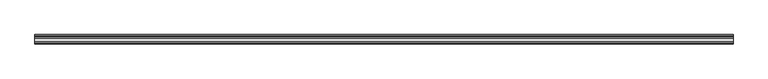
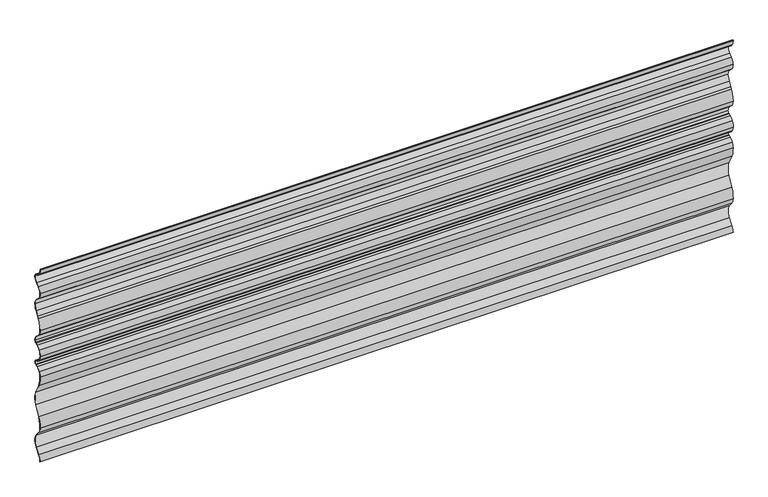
"""IFC4 building model written with IfcOpenShell, lengths in millimetres: plate geometry, Ritmica Horizontal 834 : Ritmica Horizontal 831."""

from ifc_helpers import new_model, si_unit, frame, origin, place, context, project, spatial, polyline, circle_curve, source, transform, mapped, element, save
from ifc_brep_helpers import plane_surface, cylinder_surface, revolved_surface, advanced_brep


def plate_3cee942e(model_context):
    return source(origin(), model_context, "Body", "AdvancedBrep", [
        advanced_brep(
        [(-1422.0, 6.8025667, 810.5701527), (-1422.0, 21.555412, 798.1235366), (-1422.0, 28.7508552, 795.2445695), (-1422.0, 32.2159416, 793.5852059), (-1422.0, 37.2499774, 785.5962388), (-1422.0, 25.2234387, 760.6206134), (-1422.0, 13.2407158, 751.0704574), (-1422.0, 1.2626984, 728.5919745), (-1422.0, 13.2668735, 701.127971), (-1422.0, 25.2571141, 690.0241978), (-1422.0, 37.3018308, 665.0573339), (-1422.0, 28.8878199, 638.3240963), (-1422.0, 17.756965, 620.9910926), (-1422.0, 13.3621237, 613.5575548), (-1422.0, 1.1795962, 569.3793833), (-1422.0, 13.1837712, 541.9153798), (-1422.0, 25.1740116, 530.8116067), (-1422.0, 37.2187289, 505.8415328), (-1422.0, 32.1905098, 497.8521133), (-1422.0, 28.7266321, 496.1902275), (-1422.0, 21.5332543, 493.3060102), (-1422.0, 6.7895069, 480.8486726), (-1422.0, 1.0915766, 457.0856569), (-1422.0, 6.6008381, 437.5469103), (-1422.0, 21.3536834, 425.1002943), (-1422.0, 28.5491266, 422.2213272), (-1422.0, 32.014213, 420.5619636), (-1422.0, 32.02003, 404.580367), (-1422.0, 28.5561524, 402.9184814), (-1422.0, 21.3628069, 400.034277), (-1422.0, 6.6190262, 387.5769248), (-1422.0, 1.1239895, 368.0341733), (-1422.0, 10.3054912, 324.2892209), (-1422.0, 30.7021579, 283.7581494), (-1422.0, 30.7217778, 229.8542794), (-1422.0, 10.3546215, 189.3083707), (-1422.0, 1.2049668, 145.5567461), (-1422.0, 9.8168279, 121.7925982), (-1422.0, 28.5126192, 99.3683726), (-1422.0, 28.5318582, 46.5109184), (-1422.0, 9.8523958, 23.7707747), (-1422.0, 1.2578365, 0.0), (-1422.0, 0.2578364, 0.0), (-1422.0, 9.0838592, 24.4105804), (-1422.0, 27.7463674, 47.1303588), (-1422.0, 27.7275795, 98.7483605), (-1422.0, 9.0487572, 121.1522332), (-1422.0, 0.2049775, 145.5386154), (-1422.0, 9.4571227, 189.7494732), (-1422.0, 29.8281826, 230.3031531), (-1422.0, 29.8088897, 283.3086253), (-1422.0, 9.4083137, 323.8474651), (-1422.0, 0.1239872, 368.0515751), (-1422.0, 5.7657549, 388.0983921), (-1422.0, 20.9908725, 400.9625361), (-1422.0, 28.1533532, 403.834365), (-1422.0, 31.587463, 405.4819688), (-1422.0, 31.5823024, 419.6600471), (-1422.0, 28.1469942, 421.3051505), (-1422.0, 20.9824248, 424.1717647), (-1422.0, 5.7479467, 437.024822), (-1422.0, 0.091602, 457.0529178), (-1422.0, 5.9328795, 481.3646468), (-1422.0, 21.1612849, 494.2342551), (-1422.0, 28.3238328, 497.1061111), (-1422.0, 31.7579428, 498.7537151), (-1422.0, 36.2187289, 505.841531), (-1422.0, 24.5223371, 530.052163), (-1422.0, 12.5043072, 541.1816709), (-1422.0, 0.1796018, 569.3680226), (-1422.0, 12.5080329, 614.0778463), (-1422.0, 16.9055506, 621.5159109), (-1422.0, 28.0560887, 638.8795656), (-1422.0, 36.3018302, 665.0587755), (-1422.0, 24.6053425, 689.2648438), (-1422.0, 12.5874095, 700.3942621), (-1422.0, 0.2626985, 728.5916105), (-1422.0, 12.6491122, 751.8777021), (-1422.0, 24.6001782, 761.4026277), (-1422.0, 36.2499775, 785.5958749), (-1422.0, 31.784031, 792.6832895), (-1422.0, 28.3487228, 794.3283929), (-1422.0, 21.1826741, 797.1955989), (-1422.0, 5.9471369, 810.0521734), (-1422.0, 0.0019432, 831.6592816), (-1422.0, 0.0, 834.3289815), (-1422.0, 1.0, 834.3289815), (-1422.0, 1.0, 831.6596456), (1422.0, 6.8025667, 810.5701527), (1422.0, 1.0019432, 831.6596456), (1422.0, 1.0, 834.3289815), (1422.0, 0.0, 834.3289815), (1422.0, 0.0, 831.6596456), (1422.0, 5.9471369, 810.0521734), (1422.0, 21.1826741, 797.1955989), (1422.0, 28.3487228, 794.3283929), (1422.0, 31.784031, 792.6832895), (1422.0, 36.2499775, 785.5958749), (1422.0, 24.6001782, 761.4026277), (1422.0, 12.6491122, 751.8777021), (1422.0, 0.2626985, 728.5916105), (1422.0, 12.5874095, 700.3942621), (1422.0, 24.6053425, 689.2648438), (1422.0, 36.3018302, 665.0587755), (1422.0, 28.0560887, 638.8795656), (1422.0, 16.9055506, 621.5159109), (1422.0, 12.5080329, 614.0778463), (1422.0, 0.1796018, 569.3680226), (1422.0, 12.5043072, 541.1816709), (1422.0, 24.5223371, 530.052163), (1422.0, 36.2187289, 505.841531), (1422.0, 31.7579428, 498.7537151), (1422.0, 28.3238328, 497.1061111), (1422.0, 21.1612849, 494.2342551), (1422.0, 5.9328795, 481.3646468), (1422.0, 0.091602, 457.0529178), (1422.0, 5.7479467, 437.024822), (1422.0, 20.9824248, 424.1717647), (1422.0, 28.1469942, 421.3051505), (1422.0, 31.5823024, 419.6600471), (1422.0, 31.587463, 405.4819688), (1422.0, 28.1533532, 403.834365), (1422.0, 20.9908725, 400.9625361), (1422.0, 5.7657549, 388.0983921), (1422.0, 0.1239872, 368.0515751), (1422.0, 9.4083137, 323.8474651), (1422.0, 29.8088897, 283.3086253), (1422.0, 29.8281826, 230.3031531), (1422.0, 9.4571227, 189.7494732), (1422.0, 0.2049775, 145.5386154), (1422.0, 9.0487572, 121.1522332), (1422.0, 27.7275795, 98.7483605), (1422.0, 27.7463674, 47.1303588), (1422.0, 9.0838592, 24.4105804), (1422.0, 0.2578364, 0.0), (1422.0, 1.2578365, 0.0), (1422.0, 9.8523958, 23.7707747), (1422.0, 28.5318582, 46.5109184), (1422.0, 28.5126192, 99.3683726), (1422.0, 9.8168279, 121.7925982), (1422.0, 1.2049668, 145.5567461), (1422.0, 10.3546215, 189.3083707), (1422.0, 30.7217778, 229.8542794), (1422.0, 30.7021579, 283.7581494), (1422.0, 10.3054912, 324.2892209), (1422.0, 1.1239895, 368.0341733), (1422.0, 6.6190262, 387.5769248), (1422.0, 21.3628069, 400.034277), (1422.0, 28.5561524, 402.9184814), (1422.0, 32.02003, 404.580367), (1422.0, 32.014213, 420.5619636), (1422.0, 28.5491266, 422.2213272), (1422.0, 21.3536834, 425.1002943), (1422.0, 6.6008381, 437.5469103), (1422.0, 1.0915766, 457.0856569), (1422.0, 6.7895069, 480.8486726), (1422.0, 21.5332543, 493.3060102), (1422.0, 28.7266321, 496.1902275), (1422.0, 32.1905098, 497.8521133), (1422.0, 37.2187289, 505.8415328), (1422.0, 25.1740116, 530.8116067), (1422.0, 13.1837712, 541.9153798), (1422.0, 1.1795962, 569.3793833), (1422.0, 13.3621237, 613.5575548), (1422.0, 17.756965, 620.9910926), (1422.0, 28.8878199, 638.3240963), (1422.0, 37.3018308, 665.0573339), (1422.0, 25.2571141, 690.0241978), (1422.0, 13.2668735, 701.127971), (1422.0, 1.2626984, 728.5919745), (1422.0, 13.2407158, 751.0704574), (1422.0, 25.2234387, 760.6206134), (1422.0, 37.2499774, 785.5962388), (1422.0, 32.2159416, 793.5852059), (1422.0, 28.7508552, 795.2445695), (1422.0, 21.555412, 798.1235366)],
        [
            (0, 1, circle_curve(frame((-1422.0, 33.118426, 826.7955631), z_axis=(1.0, 0.0, 0.0), x_axis=(0.0, 0.0, 1.0)), 30.9158276)),
            (1, 2),
            (2, 3),
            (3, 4, circle_curve(frame((-1422.0, 28.3886335, 785.5930135), z_axis=(-1.0, 0.0, 0.0), x_axis=(0.0, 0.0, 1.0)), 8.8613445)),
            (4, 5, circle_curve(frame((-1422.0, 5.3272804, 785.5846196), z_axis=(-1.0, 0.0, 0.0), x_axis=(0.0, 0.0, 1.0)), 31.9226992)),
            (5, 6),
            (6, 7, circle_curve(frame((-1422.0, 28.3252849, 728.6018247), z_axis=(1.0, 0.0, 0.0), x_axis=(0.0, 0.0, 1.0)), 27.0625882)),
            (7, 8, circle_curve(frame((-1422.0, 38.7130204, 728.6056057), z_axis=(1.0, 0.0, 0.0), x_axis=(0.0, 0.0, 1.0)), 37.4503244)),
            (8, 9),
            (9, 10, circle_curve(frame((-1422.0, 5.3791338, 665.0457146), z_axis=(-1.0, 0.0, 0.0), x_axis=(0.0, 0.0, 1.0)), 31.9226992)),
            (10, 11, circle_curve(frame((-1422.0, -9.8619916, 665.2109304), z_axis=(-1.0, 0.0, 0.0), x_axis=(0.0, 0.0, 1.0)), 47.1640725)),
            (11, 12),
            (12, 13),
            (13, 14, circle_curve(frame((-1422.0, 80.9291998, 571.1565204), z_axis=(1.0, 0.0, 0.0), x_axis=(0.0, 0.0, 1.0)), 79.769402)),
            (14, 15, circle_curve(frame((-1422.0, 38.6299181, 569.3930144), z_axis=(1.0, 0.0, 0.0), x_axis=(0.0, 0.0, 1.0)), 37.4503244)),
            (15, 16),
            (16, 17, circle_curve(frame((-1422.0, 5.3133473, 505.8414768), z_axis=(-1.0, 0.0, 0.0), x_axis=(0.0, 0.0, 1.0)), 31.9053816)),
            (17, 18, circle_curve(frame((-1422.0, 28.3573845, 505.8415173), z_axis=(-1.0, 0.0, 0.0), x_axis=(0.0, 0.0, 1.0)), 8.8613444)),
            (18, 19),
            (19, 20),
            (20, 21, circle_curve(frame((-1422.0, 32.9138374, 464.8830737), z_axis=(1.0, 0.0, 0.0), x_axis=(0.0, 0.0, 1.0)), 30.6166783)),
            (21, 22, circle_curve(frame((-1422.0, 42.2970284, 459.7699907), z_axis=(1.0, 0.0, 0.0), x_axis=(0.0, 0.0, 1.0)), 41.2927948)),
            (22, 23, circle_curve(frame((-1422.0, 38.5418985, 457.0992876), z_axis=(1.0, 0.0, 0.0), x_axis=(0.0, 0.0, 1.0)), 37.4503244)),
            (23, 24, circle_curve(frame((-1422.0, 32.7135403, 453.5315208), z_axis=(1.0, 0.0, 0.0), x_axis=(0.0, 0.0, 1.0)), 30.6166783)),
            (24, 25),
            (25, 26),
            (26, 27, circle_curve(frame((-1422.0, 28.1869049, 412.5697711), z_axis=(-1.0, 0.0, 0.0), x_axis=(0.0, 0.0, 1.0)), 8.8613445)),
            (27, 28),
            (28, 29),
            (29, 30, circle_curve(frame((-1422.0, 32.7433576, 371.6113276), z_axis=(1.0, 0.0, 0.0), x_axis=(0.0, 0.0, 1.0)), 30.6166783)),
            (30, 31, circle_curve(frame((-1422.0, 38.5743114, 368.0478045), z_axis=(1.0, 0.0, 0.0), x_axis=(0.0, 0.0, 1.0)), 37.4503244)),
            (31, 32, circle_curve(frame((-1422.0, 94.360147, 364.7672254), z_axis=(1.0, 0.0, 0.0), x_axis=(0.0, 0.0, 1.0)), 93.293376)),
            (32, 33),
            (33, 34, circle_curve(frame((-1422.0, -22.8939341, 256.7867029), z_axis=(-1.0, 0.0, 0.0), x_axis=(0.0, 0.0, 1.0)), 60.0)),
            (34, 35),
            (35, 36, circle_curve(frame((-1422.0, 94.4387214, 148.8915653), z_axis=(1.0, 0.0, 0.0), x_axis=(0.0, 0.0, 1.0)), 93.293376)),
            (36, 37, circle_curve(frame((-1422.0, 38.3363847, 145.5702612), z_axis=(1.0, 0.0, 0.0), x_axis=(0.0, 0.0, 1.0)), 37.1314203)),
            (37, 38),
            (38, 39, circle_curve(frame((-1422.0, -6.831934, 72.9267773), z_axis=(-1.0, 0.0, 0.0), x_axis=(0.0, 0.0, 1.0)), 44.1406321)),
            (39, 40),
            (40, 41, circle_curve(frame((-1422.0, 38.3892542, 0.0138791), z_axis=(1.0, 0.0, 0.0), x_axis=(0.0, 0.0, 1.0)), 37.1314203)),
            (41, 42),
            (42, 43, circle_curve(frame((-1422.0, 38.3892542, 0.0138791), z_axis=(-1.0, 0.0, 0.0), x_axis=(0.0, 0.0, 1.0)), 38.1314203)),
            (43, 44),
            (44, 45, circle_curve(frame((-1422.0, -6.831934, 72.9267773), z_axis=(1.0, 0.0, 0.0), x_axis=(0.0, 0.0, 1.0)), 43.1406321)),
            (45, 46),
            (46, 47, circle_curve(frame((-1422.0, 38.3363847, 145.5702612), z_axis=(-1.0, 0.0, 0.0), x_axis=(0.0, 0.0, 1.0)), 38.1314203)),
            (47, 48, circle_curve(frame((-1422.0, 94.4387214, 148.8915653), z_axis=(-1.0, 0.0, 0.0), x_axis=(0.0, 0.0, 1.0)), 94.293376)),
            (48, 49),
            (49, 50, circle_curve(frame((-1422.0, -22.8939341, 256.7867029), z_axis=(1.0, 0.0, 0.0), x_axis=(0.0, 0.0, 1.0)), 59.0)),
            (50, 51),
            (51, 52, circle_curve(frame((-1422.0, 94.360147, 364.7672254), z_axis=(-1.0, 0.0, 0.0), x_axis=(0.0, 0.0, 1.0)), 94.293376)),
            (52, 53, circle_curve(frame((-1422.0, 38.5743114, 368.0478045), z_axis=(-1.0, 0.0, 0.0), x_axis=(0.0, 0.0, 1.0)), 38.4503244)),
            (53, 54, circle_curve(frame((-1422.0, 32.7433576, 371.6113276), z_axis=(-1.0, 0.0, 0.0), x_axis=(0.0, 0.0, 1.0)), 31.6166783)),
            (54, 55),
            (55, 56),
            (56, 57, circle_curve(frame((-1422.0, 28.1869049, 412.5697711), z_axis=(1.0, 0.0, 0.0), x_axis=(0.0, 0.0, 1.0)), 7.8613445)),
            (57, 58),
            (58, 59),
            (59, 60, circle_curve(frame((-1422.0, 32.7135403, 453.5315208), z_axis=(-1.0, 0.0, 0.0), x_axis=(0.0, 0.0, 1.0)), 31.6166783)),
            (60, 61, circle_curve(frame((-1422.0, 38.5418985, 457.0992876), z_axis=(-1.0, 0.0, 0.0), x_axis=(0.0, 0.0, 1.0)), 38.4503244)),
            (61, 62, circle_curve(frame((-1422.0, 42.2970284, 459.7699907), z_axis=(-1.0, 0.0, 0.0), x_axis=(0.0, 0.0, 1.0)), 42.2927948)),
            (62, 63, circle_curve(frame((-1422.0, 32.9138374, 464.8830737), z_axis=(-1.0, 0.0, 0.0), x_axis=(0.0, 0.0, 1.0)), 31.6166782)),
            (63, 64),
            (64, 65),
            (65, 66, circle_curve(frame((-1422.0, 28.3573845, 505.8415173), z_axis=(1.0, 0.0, 0.0), x_axis=(0.0, 0.0, 1.0)), 7.8613444)),
            (66, 67, circle_curve(frame((-1422.0, 5.3133473, 505.8414768), z_axis=(1.0, 0.0, 0.0), x_axis=(0.0, 0.0, 1.0)), 30.9053816)),
            (67, 68),
            (68, 69, circle_curve(frame((-1422.0, 38.6299181, 569.3930144), z_axis=(-1.0, 0.0, 0.0), x_axis=(0.0, 0.0, 1.0)), 38.4503244)),
            (69, 70, circle_curve(frame((-1422.0, 80.9291998, 571.1565204), z_axis=(-1.0, 0.0, 0.0), x_axis=(0.0, 0.0, 1.0)), 80.769402)),
            (70, 71),
            (71, 72),
            (72, 73, circle_curve(frame((-1422.0, -9.8619916, 665.2109304), z_axis=(1.0, 0.0, 0.0), x_axis=(0.0, 0.0, 1.0)), 46.1640725)),
            (73, 74, circle_curve(frame((-1422.0, 5.3791338, 665.0457146), z_axis=(1.0, 0.0, 0.0), x_axis=(0.0, 0.0, 1.0)), 30.9226992)),
            (74, 75),
            (75, 76, circle_curve(frame((-1422.0, 38.7130204, 728.6056057), z_axis=(-1.0, 0.0, 0.0), x_axis=(0.0, 0.0, 1.0)), 38.4503244)),
            (76, 77, circle_curve(frame((-1422.0, 28.3252849, 728.6018247), z_axis=(-1.0, 0.0, 0.0), x_axis=(0.0, 0.0, 1.0)), 28.0625882)),
            (77, 78),
            (78, 79, circle_curve(frame((-1422.0, 5.3272804, 785.5846196), z_axis=(1.0, 0.0, 0.0), x_axis=(0.0, 0.0, 1.0)), 30.9226992)),
            (79, 80, circle_curve(frame((-1422.0, 28.3886335, 785.5930135), z_axis=(1.0, 0.0, 0.0), x_axis=(0.0, 0.0, 1.0)), 7.8613445)),
            (80, 81),
            (81, 82),
            (82, 83, circle_curve(frame((-1422.0, 33.118426, 826.7955631), z_axis=(-1.0, 0.0, 0.0), x_axis=(0.0, 0.0, 1.0)), 31.9158276)),
            (83, 84, circle_curve(frame((-1422.0, 42.2947353, 831.6746753), z_axis=(-1.0, 0.0, 0.0), x_axis=(0.0, 0.0, 1.0)), 42.2927949)),
            (84, 85),
            (85, 86),
            (86, 87),
            (87, 0, circle_curve(frame((-1422.0, 42.2947353, 831.6746753), z_axis=(1.0, 0.0, 0.0), x_axis=(0.0, 0.0, 1.0)), 41.2927949)),
            (88, 89, circle_curve(frame((1422.0, 42.2947353, 831.6746753), z_axis=(-1.0, 0.0, 0.0), x_axis=(0.0, 0.0, 1.0)), 41.2927949)),
            (89, 90),
            (90, 91),
            (91, 92),
            (92, 93, circle_curve(frame((1422.0, 42.2947353, 831.6746753), z_axis=(1.0, 0.0, 0.0), x_axis=(0.0, 0.0, 1.0)), 42.2927949)),
            (93, 94, circle_curve(frame((1422.0, 33.118426, 826.7955631), z_axis=(1.0, 0.0, 0.0), x_axis=(0.0, 0.0, 1.0)), 31.9158276)),
            (94, 95),
            (95, 96),
            (96, 97, circle_curve(frame((1422.0, 28.3886335, 785.5930135), z_axis=(-1.0, 0.0, 0.0), x_axis=(0.0, 0.0, 1.0)), 7.8613445)),
            (97, 98, circle_curve(frame((1422.0, 5.3272804, 785.5846196), z_axis=(-1.0, 0.0, 0.0), x_axis=(0.0, 0.0, 1.0)), 30.9226992)),
            (98, 99),
            (99, 100, circle_curve(frame((1422.0, 28.3252849, 728.6018247), z_axis=(1.0, 0.0, 0.0), x_axis=(0.0, 0.0, 1.0)), 28.0625882)),
            (100, 101, circle_curve(frame((1422.0, 38.7130204, 728.6056057), z_axis=(1.0, 0.0, 0.0), x_axis=(0.0, 0.0, 1.0)), 38.4503244)),
            (101, 102),
            (102, 103, circle_curve(frame((1422.0, 5.3791338, 665.0457146), z_axis=(-1.0, 0.0, 0.0), x_axis=(0.0, 0.0, 1.0)), 30.9226992)),
            (103, 104, circle_curve(frame((1422.0, -9.8619916, 665.2109304), z_axis=(-1.0, 0.0, 0.0), x_axis=(0.0, 0.0, 1.0)), 46.1640725)),
            (104, 105),
            (105, 106),
            (106, 107, circle_curve(frame((1422.0, 80.9291998, 571.1565204), z_axis=(1.0, 0.0, 0.0), x_axis=(0.0, 0.0, 1.0)), 80.769402)),
            (107, 108, circle_curve(frame((1422.0, 38.6299181, 569.3930144), z_axis=(1.0, 0.0, 0.0), x_axis=(0.0, 0.0, 1.0)), 38.4503244)),
            (108, 109),
            (109, 110, circle_curve(frame((1422.0, 5.3133473, 505.8414768), z_axis=(-1.0, 0.0, 0.0), x_axis=(0.0, 0.0, 1.0)), 30.9053816)),
            (110, 111, circle_curve(frame((1422.0, 28.3573845, 505.8415173), z_axis=(-1.0, 0.0, 0.0), x_axis=(0.0, 0.0, 1.0)), 7.8613444)),
            (111, 112),
            (112, 113),
            (113, 114, circle_curve(frame((1422.0, 32.9138374, 464.8830737), z_axis=(1.0, 0.0, 0.0), x_axis=(0.0, 0.0, 1.0)), 31.6166782)),
            (114, 115, circle_curve(frame((1422.0, 42.2970284, 459.7699907), z_axis=(1.0, 0.0, 0.0), x_axis=(0.0, 0.0, 1.0)), 42.2927948)),
            (115, 116, circle_curve(frame((1422.0, 38.5418985, 457.0992876), z_axis=(1.0, 0.0, 0.0), x_axis=(0.0, 0.0, 1.0)), 38.4503244)),
            (116, 117, circle_curve(frame((1422.0, 32.7135403, 453.5315208), z_axis=(1.0, 0.0, 0.0), x_axis=(0.0, 0.0, 1.0)), 31.6166783)),
            (117, 118),
            (118, 119),
            (119, 120, circle_curve(frame((1422.0, 28.1869049, 412.5697711), z_axis=(-1.0, 0.0, 0.0), x_axis=(0.0, 0.0, 1.0)), 7.8613445)),
            (120, 121),
            (121, 122),
            (122, 123, circle_curve(frame((1422.0, 32.7433576, 371.6113276), z_axis=(1.0, 0.0, 0.0), x_axis=(0.0, 0.0, 1.0)), 31.6166783)),
            (123, 124, circle_curve(frame((1422.0, 38.5743114, 368.0478045), z_axis=(1.0, 0.0, 0.0), x_axis=(0.0, 0.0, 1.0)), 38.4503244)),
            (124, 125, circle_curve(frame((1422.0, 94.360147, 364.7672254), z_axis=(1.0, 0.0, 0.0), x_axis=(0.0, 0.0, 1.0)), 94.293376)),
            (125, 126),
            (126, 127, circle_curve(frame((1422.0, -22.8939341, 256.7867029), z_axis=(-1.0, 0.0, 0.0), x_axis=(0.0, 0.0, 1.0)), 59.0)),
            (127, 128),
            (128, 129, circle_curve(frame((1422.0, 94.4387214, 148.8915653), z_axis=(1.0, 0.0, 0.0), x_axis=(0.0, 0.0, 1.0)), 94.293376)),
            (129, 130, circle_curve(frame((1422.0, 38.3363847, 145.5702612), z_axis=(1.0, 0.0, 0.0), x_axis=(0.0, 0.0, 1.0)), 38.1314203)),
            (130, 131),
            (131, 132, circle_curve(frame((1422.0, -6.831934, 72.9267773), z_axis=(-1.0, 0.0, 0.0), x_axis=(0.0, 0.0, 1.0)), 43.1406321)),
            (132, 133),
            (133, 134, circle_curve(frame((1422.0, 38.3892542, 0.0138791), z_axis=(1.0, 0.0, 0.0), x_axis=(0.0, 0.0, 1.0)), 38.1314203)),
            (134, 135),
            (135, 136, circle_curve(frame((1422.0, 38.3892542, 0.0138791), z_axis=(-1.0, 0.0, 0.0), x_axis=(0.0, 0.0, 1.0)), 37.1314203)),
            (136, 137),
            (137, 138, circle_curve(frame((1422.0, -6.831934, 72.9267773), z_axis=(1.0, 0.0, 0.0), x_axis=(0.0, 0.0, 1.0)), 44.1406321)),
            (138, 139),
            (139, 140, circle_curve(frame((1422.0, 38.3363847, 145.5702612), z_axis=(-1.0, 0.0, 0.0), x_axis=(0.0, 0.0, 1.0)), 37.1314203)),
            (140, 141, circle_curve(frame((1422.0, 94.4387214, 148.8915653), z_axis=(-1.0, 0.0, 0.0), x_axis=(0.0, 0.0, 1.0)), 93.293376)),
            (141, 142),
            (142, 143, circle_curve(frame((1422.0, -22.8939341, 256.7867029), z_axis=(1.0, 0.0, 0.0), x_axis=(0.0, 0.0, 1.0)), 60.0)),
            (143, 144),
            (144, 145, circle_curve(frame((1422.0, 94.360147, 364.7672254), z_axis=(-1.0, 0.0, 0.0), x_axis=(0.0, 0.0, 1.0)), 93.293376)),
            (145, 146, circle_curve(frame((1422.0, 38.5743114, 368.0478045), z_axis=(-1.0, 0.0, 0.0), x_axis=(0.0, 0.0, 1.0)), 37.4503244)),
            (146, 147, circle_curve(frame((1422.0, 32.7433576, 371.6113276), z_axis=(-1.0, 0.0, 0.0), x_axis=(0.0, 0.0, 1.0)), 30.6166783)),
            (147, 148),
            (148, 149),
            (149, 150, circle_curve(frame((1422.0, 28.1869049, 412.5697711), z_axis=(1.0, 0.0, 0.0), x_axis=(0.0, 0.0, 1.0)), 8.8613445)),
            (150, 151),
            (151, 152),
            (152, 153, circle_curve(frame((1422.0, 32.7135403, 453.5315208), z_axis=(-1.0, 0.0, 0.0), x_axis=(0.0, 0.0, 1.0)), 30.6166783)),
            (153, 154, circle_curve(frame((1422.0, 38.5418985, 457.0992876), z_axis=(-1.0, 0.0, 0.0), x_axis=(0.0, 0.0, 1.0)), 37.4503244)),
            (154, 155, circle_curve(frame((1422.0, 42.2970284, 459.7699907), z_axis=(-1.0, 0.0, 0.0), x_axis=(0.0, 0.0, 1.0)), 41.2927948)),
            (155, 156, circle_curve(frame((1422.0, 32.9138374, 464.8830737), z_axis=(-1.0, 0.0, 0.0), x_axis=(0.0, 0.0, 1.0)), 30.6166783)),
            (156, 157),
            (157, 158),
            (158, 159, circle_curve(frame((1422.0, 28.3573845, 505.8415173), z_axis=(1.0, 0.0, 0.0), x_axis=(0.0, 0.0, 1.0)), 8.8613444)),
            (159, 160, circle_curve(frame((1422.0, 5.3133473, 505.8414768), z_axis=(1.0, 0.0, 0.0), x_axis=(0.0, 0.0, 1.0)), 31.9053816)),
            (160, 161),
            (161, 162, circle_curve(frame((1422.0, 38.6299181, 569.3930144), z_axis=(-1.0, 0.0, 0.0), x_axis=(0.0, 0.0, 1.0)), 37.4503244)),
            (162, 163, circle_curve(frame((1422.0, 80.9291998, 571.1565204), z_axis=(-1.0, 0.0, 0.0), x_axis=(0.0, 0.0, 1.0)), 79.769402)),
            (163, 164),
            (164, 165),
            (165, 166, circle_curve(frame((1422.0, -9.8619916, 665.2109304), z_axis=(1.0, 0.0, 0.0), x_axis=(0.0, 0.0, 1.0)), 47.1640725)),
            (166, 167, circle_curve(frame((1422.0, 5.3791338, 665.0457146), z_axis=(1.0, 0.0, 0.0), x_axis=(0.0, 0.0, 1.0)), 31.9226992)),
            (167, 168),
            (168, 169, circle_curve(frame((1422.0, 38.7130204, 728.6056057), z_axis=(-1.0, 0.0, 0.0), x_axis=(0.0, 0.0, 1.0)), 37.4503244)),
            (169, 170, circle_curve(frame((1422.0, 28.3252849, 728.6018247), z_axis=(-1.0, 0.0, 0.0), x_axis=(0.0, 0.0, 1.0)), 27.0625882)),
            (170, 171),
            (171, 172, circle_curve(frame((1422.0, 5.3272804, 785.5846196), z_axis=(1.0, 0.0, 0.0), x_axis=(0.0, 0.0, 1.0)), 31.9226992)),
            (172, 173, circle_curve(frame((1422.0, 28.3886335, 785.5930135), z_axis=(1.0, 0.0, 0.0), x_axis=(0.0, 0.0, 1.0)), 8.8613445)),
            (173, 174),
            (174, 175),
            (175, 88, circle_curve(frame((1422.0, 33.118426, 826.7955631), z_axis=(-1.0, 0.0, 0.0), x_axis=(0.0, 0.0, 1.0)), 30.9158276)),
            (87, 89),
            (88, 0),
            (175, 1),
            (174, 2),
            (173, 3),
            (172, 4),
            (171, 5),
            (170, 6),
            (169, 7),
            (168, 8),
            (167, 9),
            (166, 10),
            (165, 11),
            (164, 12),
            (163, 13),
            (162, 14),
            (161, 15),
            (160, 16),
            (159, 17),
            (158, 18),
            (157, 19),
            (156, 20),
            (155, 21),
            (154, 22),
            (153, 23),
            (152, 24),
            (151, 25),
            (150, 26),
            (149, 27),
            (148, 28),
            (147, 29),
            (146, 30),
            (145, 31),
            (144, 32),
            (143, 33),
            (142, 34),
            (141, 35),
            (140, 36),
            (139, 37),
            (138, 38),
            (137, 39),
            (136, 40),
            (135, 41),
            (134, 42),
            (133, 43),
            (132, 44),
            (131, 45),
            (130, 46),
            (129, 47),
            (128, 48),
            (127, 49),
            (126, 50),
            (125, 51),
            (124, 52),
            (123, 53),
            (122, 54),
            (121, 55),
            (120, 56),
            (119, 57),
            (118, 58),
            (117, 59),
            (116, 60),
            (115, 61),
            (114, 62),
            (113, 63),
            (112, 64),
            (111, 65),
            (110, 66),
            (109, 67),
            (108, 68),
            (107, 69),
            (106, 70),
            (105, 71),
            (104, 72),
            (103, 73),
            (102, 74),
            (101, 75),
            (100, 76),
            (99, 77),
            (98, 78),
            (97, 79),
            (96, 80),
            (95, 81),
            (94, 82),
            (93, 83),
            (92, 84),
            (91, 85),
            (90, 86),
        ],
        [
            plane_surface(frame((-1422.0, 33.118426, 857.7113907), z_axis=(-1.0, 0.0, 0.0), x_axis=(0.0, -1.0, 0.0))),
            plane_surface(frame((1422.0, 33.118426, 857.7113907), z_axis=(1.0, 0.0, 0.0), x_axis=(0.0, 1.0, 0.0))),
            revolved_surface(polyline([(1422.0, 42.2947353, 872.9674702), (-1422.0, 42.2947353, 872.9674702)]), (1422.0, 42.2947353, 831.6746753), (1.0, 0.0, 0.0)),
            revolved_surface(polyline([(1422.0, 33.118426, 857.7113907), (-1422.0, 33.118426, 857.7113907)]), (1422.0, 33.118426, 826.7955631), (1.0, 0.0, 0.0)),
            plane_surface(frame((-1422.0, 21.555412, 798.1235366), z_axis=(0.0, 0.3714785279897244, 0.9284415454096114), x_axis=(1.0, 0.0, 0.0))),
            plane_surface(frame((-1422.0, 28.7508552, 795.2445695), z_axis=(0.0, 0.4319105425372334, 0.9019164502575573), x_axis=(1.0, 0.0, 0.0))),
            cylinder_surface(frame((1422.0, 28.3886335, 785.5930135), z_axis=(-1.0, 0.0, 0.0), x_axis=(0.0, 0.0, 1.0)), 8.8613445),
            cylinder_surface(frame((1422.0, 5.3272804, 785.5846196), z_axis=(-1.0, 0.0, 0.0), x_axis=(0.0, 0.0, 1.0)), 31.9226992),
            plane_surface(frame((-1422.0, 25.2234387, 760.6206134), z_axis=(0.0, 0.6232605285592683, -0.7820142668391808), x_axis=(1.0, 0.0, 0.0))),
            revolved_surface(polyline([(1422.0, 28.3252849, 755.6644129), (-1422.0, 28.3252849, 755.6644129)]), (1422.0, 28.3252849, 728.6018247), (1.0, 0.0, 0.0)),
            revolved_surface(polyline([(1422.0, 38.7130204, 766.0559301), (-1422.0, 38.7130204, 766.0559301)]), (1422.0, 38.7130204, 728.6056057), (1.0, 0.0, 0.0)),
            plane_surface(frame((-1422.0, 13.2668735, 701.127971), z_axis=(0.0, 0.6794639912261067, 0.7337088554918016), x_axis=(1.0, 0.0, 0.0))),
            cylinder_surface(frame((1422.0, 5.3791338, 665.0457146), z_axis=(-1.0, 0.0, 0.0), x_axis=(0.0, 0.0, 1.0)), 31.9226992),
            cylinder_surface(frame((1422.0, -9.8619916, 665.2109304), z_axis=(-1.0, 0.0, 0.0), x_axis=(0.0, 0.0, 1.0)), 47.1640725),
            plane_surface(frame((-1422.0, 28.8878199, 638.3240963), z_axis=(0.0, 0.8414387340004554, -0.5403525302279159), x_axis=(1.0, 0.0, 0.0))),
            plane_surface(frame((-1422.0, 17.756965, 620.9910926), z_axis=(0.0, 0.8608100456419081, -0.5089263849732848), x_axis=(1.0, 0.0, 0.0))),
            revolved_surface(polyline([(1422.0, 80.9291998, 650.9259224), (-1422.0, 80.9291998, 650.9259224)]), (1422.0, 80.9291998, 571.1565204), (1.0, 0.0, 0.0)),
            revolved_surface(polyline([(1422.0, 38.6299181, 606.8433388), (-1422.0, 38.6299181, 606.8433388)]), (1422.0, 38.6299181, 569.3930144), (1.0, 0.0, 0.0)),
            plane_surface(frame((-1422.0, 13.1837712, 541.9153798), z_axis=(0.0, 0.6794639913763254, 0.7337088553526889), x_axis=(1.0, 0.0, 0.0))),
            cylinder_surface(frame((1422.0, 5.3133473, 505.8414768), z_axis=(-1.0, 0.0, 0.0), x_axis=(0.0, 0.0, 1.0)), 31.9053816),
            cylinder_surface(frame((1422.0, 28.3573845, 505.8415173), z_axis=(-1.0, 0.0, 0.0), x_axis=(0.0, 0.0, 1.0)), 8.8613444),
            plane_surface(frame((-1422.0, 32.1905098, 497.8521133), z_axis=(0.0, 0.43256701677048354, -0.9016017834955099), x_axis=(1.0, 0.0, 0.0))),
            plane_surface(frame((-1422.0, 28.7266321, 496.1902275), z_axis=(0.0, 0.37215430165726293, -0.9281708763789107), x_axis=(1.0, 0.0, 0.0))),
            revolved_surface(polyline([(1422.0, 32.9138374, 495.499752), (-1422.0, 32.9138374, 495.499752)]), (1422.0, 32.9138374, 464.8830737), (1.0, 0.0, 0.0)),
            revolved_surface(polyline([(1422.0, 42.2970284, 501.0627855), (-1422.0, 42.2970284, 501.0627855)]), (1422.0, 42.2970284, 459.7699907), (1.0, 0.0, 0.0)),
            revolved_surface(polyline([(1422.0, 38.5418985, 494.549612), (-1422.0, 38.5418985, 494.549612)]), (1422.0, 38.5418985, 457.0992876), (1.0, 0.0, 0.0)),
            revolved_surface(polyline([(1422.0, 32.7135403, 484.1481991), (-1422.0, 32.7135403, 484.1481991)]), (1422.0, 32.7135403, 453.5315208), (1.0, 0.0, 0.0)),
            plane_surface(frame((-1422.0, 21.3536834, 425.1002943), z_axis=(0.0, 0.3714785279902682, 0.9284415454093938), x_axis=(1.0, 0.0, 0.0))),
            plane_surface(frame((-1422.0, 28.5491266, 422.2213272), z_axis=(0.0, 0.43191054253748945, 0.9019164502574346), x_axis=(1.0, 0.0, 0.0))),
            cylinder_surface(frame((1422.0, 28.1869049, 412.5697711), z_axis=(-1.0, 0.0, 0.0), x_axis=(0.0, 0.0, 1.0)), 8.8613445),
            plane_surface(frame((-1422.0, 32.02003, 404.580367), z_axis=(0.0, 0.432566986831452, -0.901601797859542), x_axis=(1.0, 0.0, 0.0))),
            plane_surface(frame((-1422.0, 28.5561524, 402.9184814), z_axis=(0.0, 0.3721542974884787, -0.9281708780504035), x_axis=(1.0, 0.0, 0.0))),
            revolved_surface(polyline([(1422.0, 32.7433576, 402.22800589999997), (-1422.0, 32.7433576, 402.22800589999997)]), (1422.0, 32.7433576, 371.6113276), (1.0, 0.0, 0.0)),
            revolved_surface(polyline([(1422.0, 38.5743114, 405.4981289), (-1422.0, 38.5743114, 405.4981289)]), (1422.0, 38.5743114, 368.0478045), (1.0, 0.0, 0.0)),
            revolved_surface(polyline([(1422.0, 94.360147, 458.0606014), (-1422.0, 94.360147, 458.0606014)]), (1422.0, 94.360147, 364.7672254), (1.0, 0.0, 0.0)),
            plane_surface(frame((-1422.0, 10.3054912, 324.2892209), z_axis=(0.0, 0.8932681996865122, 0.4495241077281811), x_axis=(1.0, 0.0, 0.0))),
            cylinder_surface(frame((1422.0, -22.8939341, 256.7867029), z_axis=(-1.0, 0.0, 0.0), x_axis=(0.0, 0.0, 1.0)), 60.0),
            plane_surface(frame((-1422.0, 30.7217778, 229.8542794), z_axis=(0.0, 0.8935951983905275, -0.44887372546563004), x_axis=(1.0, 0.0, 0.0))),
            revolved_surface(polyline([(1422.0, 94.4387214, 242.1849413), (-1422.0, 94.4387214, 242.1849413)]), (1422.0, 94.4387214, 148.8915653), (1.0, 0.0, 0.0)),
            revolved_surface(polyline([(1422.0, 38.3363847, 182.7016815), (-1422.0, 38.3363847, 182.7016815)]), (1422.0, 38.3363847, 145.5702612), (1.0, 0.0, 0.0)),
            plane_surface(frame((-1422.0, 9.8168279, 121.7925982), z_axis=(0.0, 0.768070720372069, 0.640365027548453), x_axis=(1.0, 0.0, 0.0))),
            cylinder_surface(frame((1422.0, -6.831934, 72.9267773), z_axis=(-1.0, 0.0, 0.0), x_axis=(0.0, 0.0, 1.0)), 44.1406321),
            plane_surface(frame((-1422.0, 28.5318582, 46.5109184), z_axis=(0.0, 0.7727252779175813, -0.6347406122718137), x_axis=(1.0, 0.0, 0.0))),
            revolved_surface(polyline([(1422.0, 38.3892542, 37.1452994), (-1422.0, 38.3892542, 37.1452994)]), (1422.0, 38.3892542, 0.0138791), (1.0, 0.0, 0.0)),
            plane_surface(frame((-1422.0, 1.2578365, 0.0), z_axis=(0.0, 0.0, -1.0), x_axis=(1.0, 0.0, 0.0))),
            cylinder_surface(frame((1422.0, 38.3892542, 0.0138791), z_axis=(-1.0, 0.0, 0.0), x_axis=(0.0, 0.0, 1.0)), 38.1314203),
            plane_surface(frame((-1422.0, 9.0838592, 24.4105804), z_axis=(0.0, -0.772729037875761, 0.6347360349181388), x_axis=(1.0, 0.0, 0.0))),
            revolved_surface(polyline([(1422.0, -6.831934, 116.0674094), (-1422.0, -6.831934, 116.0674094)]), (1422.0, -6.831934, 72.9267773), (1.0, 0.0, 0.0)),
            plane_surface(frame((-1422.0, 27.7275795, 98.7483605), z_axis=(0.0, -0.7680707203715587, -0.6403650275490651), x_axis=(1.0, 0.0, 0.0))),
            cylinder_surface(frame((1422.0, 38.3363847, 145.5702612), z_axis=(-1.0, 0.0, 0.0), x_axis=(0.0, 0.0, 1.0)), 38.1314203),
            cylinder_surface(frame((1422.0, 94.4387214, 148.8915653), z_axis=(-1.0, 0.0, 0.0), x_axis=(0.0, 0.0, 1.0)), 94.293376),
            plane_surface(frame((-1422.0, 9.4571227, 189.7494732), z_axis=(0.0, -0.893595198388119, 0.448873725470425), x_axis=(1.0, 0.0, 0.0))),
            revolved_surface(polyline([(1422.0, -22.8939341, 315.7867029), (-1422.0, -22.8939341, 315.7867029)]), (1422.0, -22.8939341, 256.7867029), (1.0, 0.0, 0.0)),
            plane_surface(frame((-1422.0, 29.8088897, 283.3086253), z_axis=(0.0, -0.8932681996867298, -0.4495241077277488), x_axis=(1.0, 0.0, 0.0))),
            cylinder_surface(frame((1422.0, 94.360147, 364.7672254), z_axis=(-1.0, 0.0, 0.0), x_axis=(0.0, 0.0, 1.0)), 94.293376),
            cylinder_surface(frame((1422.0, 38.5743114, 368.0478045), z_axis=(-1.0, 0.0, 0.0), x_axis=(0.0, 0.0, 1.0)), 38.4503244),
            cylinder_surface(frame((1422.0, 32.7433576, 371.6113276), z_axis=(-1.0, 0.0, 0.0), x_axis=(0.0, 0.0, 1.0)), 31.6166783),
            plane_surface(frame((-1422.0, 20.9908725, 400.9625361), z_axis=(0.0, -0.3721542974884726, 0.9281708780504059), x_axis=(1.0, 0.0, 0.0))),
            plane_surface(frame((-1422.0, 28.1533532, 403.834365), z_axis=(0.0, -0.43256698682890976, 0.9016017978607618), x_axis=(1.0, 0.0, 0.0))),
            revolved_surface(polyline([(1422.0, 28.1869049, 420.4311156), (-1422.0, 28.1869049, 420.4311156)]), (1422.0, 28.1869049, 412.5697711), (1.0, 0.0, 0.0)),
            plane_surface(frame((-1422.0, 31.5823024, 419.6600471), z_axis=(0.0, -0.43191054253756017, -0.9019164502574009), x_axis=(1.0, 0.0, 0.0))),
            plane_surface(frame((-1422.0, 28.1469942, 421.3051505), z_axis=(0.0, -0.3714785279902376, -0.9284415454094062), x_axis=(1.0, 0.0, 0.0))),
            cylinder_surface(frame((1422.0, 32.7135403, 453.5315208), z_axis=(-1.0, 0.0, 0.0), x_axis=(0.0, 0.0, 1.0)), 31.6166783),
            cylinder_surface(frame((1422.0, 38.5418985, 457.0992876), z_axis=(-1.0, 0.0, 0.0), x_axis=(0.0, 0.0, 1.0)), 38.4503244),
            cylinder_surface(frame((1422.0, 42.2970284, 459.7699907), z_axis=(-1.0, 0.0, 0.0), x_axis=(0.0, 0.0, 1.0)), 42.2927948),
            cylinder_surface(frame((1422.0, 32.9138374, 464.8830737), z_axis=(-1.0, 0.0, 0.0), x_axis=(0.0, 0.0, 1.0)), 31.6166782),
            plane_surface(frame((-1422.0, 21.1612849, 494.2342551), z_axis=(0.0, -0.3721543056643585, 0.9281708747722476), x_axis=(1.0, 0.0, 0.0))),
            plane_surface(frame((-1422.0, 28.3238328, 497.1061111), z_axis=(0.0, -0.43256701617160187, 0.9016017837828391), x_axis=(1.0, 0.0, 0.0))),
            revolved_surface(polyline([(1422.0, 28.3573845, 513.7028617), (-1422.0, 28.3573845, 513.7028617)]), (1422.0, 28.3573845, 505.8415173), (1.0, 0.0, 0.0)),
            revolved_surface(polyline([(1422.0, 5.3133473, 536.7468584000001), (-1422.0, 5.3133473, 536.7468584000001)]), (1422.0, 5.3133473, 505.8414768), (1.0, 0.0, 0.0)),
            plane_surface(frame((-1422.0, 24.5223371, 530.052163), z_axis=(0.0, -0.6794639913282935, -0.7337088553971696), x_axis=(1.0, 0.0, 0.0))),
            cylinder_surface(frame((1422.0, 38.6299181, 569.3930144), z_axis=(-1.0, 0.0, 0.0), x_axis=(0.0, 0.0, 1.0)), 38.4503244),
            cylinder_surface(frame((1422.0, 80.9291998, 571.1565204), z_axis=(-1.0, 0.0, 0.0), x_axis=(0.0, 0.0, 1.0)), 80.769402),
            plane_surface(frame((-1422.0, 12.5080329, 614.0778463), z_axis=(0.0, -0.8608100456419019, 0.5089263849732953), x_axis=(1.0, 0.0, 0.0))),
            plane_surface(frame((-1422.0, 16.9055506, 621.5159109), z_axis=(0.0, -0.8414387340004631, 0.5403525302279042), x_axis=(1.0, 0.0, 0.0))),
            revolved_surface(polyline([(1422.0, -9.8619916, 711.3750029), (-1422.0, -9.8619916, 711.3750029)]), (1422.0, -9.8619916, 665.2109304), (1.0, 0.0, 0.0)),
            revolved_surface(polyline([(1422.0, 5.3791338, 695.9684138), (-1422.0, 5.3791338, 695.9684138)]), (1422.0, 5.3791338, 665.0457146), (1.0, 0.0, 0.0)),
            plane_surface(frame((-1422.0, 24.6053425, 689.2648438), z_axis=(0.0, -0.6794639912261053, -0.7337088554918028), x_axis=(1.0, 0.0, 0.0))),
            cylinder_surface(frame((1422.0, 38.7130204, 728.6056057), z_axis=(-1.0, 0.0, 0.0), x_axis=(0.0, 0.0, 1.0)), 38.4503244),
            cylinder_surface(frame((1422.0, 28.3252849, 728.6018247), z_axis=(-1.0, 0.0, 0.0), x_axis=(0.0, 0.0, 1.0)), 28.0625882),
            plane_surface(frame((-1422.0, 12.6491122, 751.8777021), z_axis=(0.0, -0.6232605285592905, 0.7820142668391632), x_axis=(1.0, 0.0, 0.0))),
            revolved_surface(polyline([(1422.0, 5.3272804, 816.5073188), (-1422.0, 5.3272804, 816.5073188)]), (1422.0, 5.3272804, 785.5846196), (1.0, 0.0, 0.0)),
            revolved_surface(polyline([(1422.0, 28.3886335, 793.454358), (-1422.0, 28.3886335, 793.454358)]), (1422.0, 28.3886335, 785.5930135), (1.0, 0.0, 0.0)),
            plane_surface(frame((-1422.0, 31.784031, 792.6832895), z_axis=(0.0, -0.43191054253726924, -0.9019164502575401), x_axis=(1.0, 0.0, 0.0))),
            plane_surface(frame((-1422.0, 28.3487228, 794.3283929), z_axis=(0.0, -0.37147852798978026, -0.9284415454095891), x_axis=(1.0, 0.0, 0.0))),
            cylinder_surface(frame((1422.0, 33.118426, 826.7955631), z_axis=(-1.0, 0.0, 0.0), x_axis=(0.0, 0.0, 1.0)), 31.9158276),
            cylinder_surface(frame((1422.0, 42.2947353, 831.6746753), z_axis=(-1.0, 0.0, 0.0), x_axis=(0.0, 0.0, 1.0)), 42.2927949),
            plane_surface(frame((-1422.0, 0.0, 831.6596456), z_axis=(0.0, -1.0, 0.0), x_axis=(1.0, 0.0, 0.0))),
            plane_surface(frame((-1422.0, 0.0, 834.3289815), z_axis=(0.0, 0.0, 1.0), x_axis=(1.0, 0.0, 0.0))),
            plane_surface(frame((-1422.0, 1.0, 834.3289815), z_axis=(0.0, 1.0, 0.0), x_axis=(1.0, 0.0, 0.0))),
        ],
        [
            (0, [[1, 2, 3, 4, 5, 6, 7, 8, 9, 10, 11, 12, 13, 14, 15, 16, 17, 18, 19, 20, 21, 22, 23, 24, 25, 26, 27, 28, 29, 30, 31, 32, 33, 34, 35, 36, 37, 38, 39, 40, 41, 42, 43, 44, 45, 46, 47, 48, 49, 50, 51, 52, 53, 54, 55, 56, 57, 58, 59, 60, 61, 62, 63, 64, 65, 66, 67, 68, 69, 70, 71, 72, 73, 74, 75, 76, 77, 78, 79, 80, 81, 82, 83, 84, 85, 86, 87, 88]]),
            (1, [[89, 90, 91, 92, 93, 94, 95, 96, 97, 98, 99, 100, 101, 102, 103, 104, 105, 106, 107, 108, 109, 110, 111, 112, 113, 114, 115, 116, 117, 118, 119, 120, 121, 122, 123, 124, 125, 126, 127, 128, 129, 130, 131, 132, 133, 134, 135, 136, 137, 138, 139, 140, 141, 142, 143, 144, 145, 146, 147, 148, 149, 150, 151, 152, 153, 154, 155, 156, 157, 158, 159, 160, 161, 162, 163, 164, 165, 166, 167, 168, 169, 170, 171, 172, 173, 174, 175, 176]]),
            (2, [[-88, 177, -89, 178]]),
            (3, [[-1, -178, -176, 179]]),
            (4, [[-2, -179, -175, 180]]),
            (5, [[-3, -180, -174, 181]]),
            (6, [[-4, -181, -173, 182]]),
            (7, [[-5, -182, -172, 183]]),
            (8, [[-6, -183, -171, 184]]),
            (9, [[-7, -184, -170, 185]]),
            (10, [[-8, -185, -169, 186]]),
            (11, [[-9, -186, -168, 187]]),
            (12, [[-10, -187, -167, 188]]),
            (13, [[-11, -188, -166, 189]]),
            (14, [[-12, -189, -165, 190]]),
            (15, [[-13, -190, -164, 191]]),
            (16, [[-14, -191, -163, 192]]),
            (17, [[-15, -192, -162, 193]]),
            (18, [[-16, -193, -161, 194]]),
            (19, [[-17, -194, -160, 195]]),
            (20, [[-18, -195, -159, 196]]),
            (21, [[-19, -196, -158, 197]]),
            (22, [[-20, -197, -157, 198]]),
            (23, [[-21, -198, -156, 199]]),
            (24, [[-22, -199, -155, 200]]),
            (25, [[-23, -200, -154, 201]]),
            (26, [[-24, -201, -153, 202]]),
            (27, [[-25, -202, -152, 203]]),
            (28, [[-26, -203, -151, 204]]),
            (29, [[-27, -204, -150, 205]]),
            (30, [[-28, -205, -149, 206]]),
            (31, [[-29, -206, -148, 207]]),
            (32, [[-30, -207, -147, 208]]),
            (33, [[-31, -208, -146, 209]]),
            (34, [[-32, -209, -145, 210]]),
            (35, [[-33, -210, -144, 211]]),
            (36, [[-34, -211, -143, 212]]),
            (37, [[-35, -212, -142, 213]]),
            (38, [[-36, -213, -141, 214]]),
            (39, [[-37, -214, -140, 215]]),
            (40, [[-38, -215, -139, 216]]),
            (41, [[-39, -216, -138, 217]]),
            (42, [[-40, -217, -137, 218]]),
            (43, [[-41, -218, -136, 219]]),
            (44, [[-42, -219, -135, 220]]),
            (45, [[-43, -220, -134, 221]]),
            (46, [[-44, -221, -133, 222]]),
            (47, [[-45, -222, -132, 223]]),
            (48, [[-46, -223, -131, 224]]),
            (49, [[-47, -224, -130, 225]]),
            (50, [[-48, -225, -129, 226]]),
            (51, [[-49, -226, -128, 227]]),
            (52, [[-50, -227, -127, 228]]),
            (53, [[-51, -228, -126, 229]]),
            (54, [[-52, -229, -125, 230]]),
            (55, [[-53, -230, -124, 231]]),
            (56, [[-54, -231, -123, 232]]),
            (57, [[-55, -232, -122, 233]]),
            (58, [[-56, -233, -121, 234]]),
            (59, [[-57, -234, -120, 235]]),
            (60, [[-58, -235, -119, 236]]),
            (61, [[-59, -236, -118, 237]]),
            (62, [[-60, -237, -117, 238]]),
            (63, [[-61, -238, -116, 239]]),
            (64, [[-62, -239, -115, 240]]),
            (65, [[-63, -240, -114, 241]]),
            (66, [[-64, -241, -113, 242]]),
            (67, [[-65, -242, -112, 243]]),
            (68, [[-66, -243, -111, 244]]),
            (69, [[-67, -244, -110, 245]]),
            (70, [[-68, -245, -109, 246]]),
            (71, [[-69, -246, -108, 247]]),
            (72, [[-70, -247, -107, 248]]),
            (73, [[-71, -248, -106, 249]]),
            (74, [[-72, -249, -105, 250]]),
            (75, [[-73, -250, -104, 251]]),
            (76, [[-74, -251, -103, 252]]),
            (77, [[-75, -252, -102, 253]]),
            (78, [[-76, -253, -101, 254]]),
            (79, [[-77, -254, -100, 255]]),
            (80, [[-78, -255, -99, 256]]),
            (81, [[-79, -256, -98, 257]]),
            (82, [[-80, -257, -97, 258]]),
            (83, [[-81, -258, -96, 259]]),
            (84, [[-82, -259, -95, 260]]),
            (85, [[-83, -260, -94, 261]]),
            (86, [[-84, -261, -93, 262]]),
            (87, [[-85, -262, -92, 263]]),
            (88, [[-86, -263, -91, 264]]),
            (89, [[-87, -264, -90, -177]]),
        ],
    ),
    ])


if __name__ == "__main__":
    model = new_model("IFC4")
    model_context = context("Model", 3, world=origin())
    ifc_project = project(units=[si_unit("LENGTHUNIT", "METRE", prefix="MILLI")], contexts=[model_context])
    site = spatial("IfcSite", under=ifc_project)
    building = spatial("IfcBuilding", under=site)
    placement = place(None, origin())
    plate_shape = plate_3cee942e(model_context)
    element("IfcPlate", 1, ObjectType="Ritmica Horizontal 834 : Ritmica Horizontal 831", at=placement, inside=building, context=model_context, shape_type="MappedRepresentation", body=[
        mapped(plate_shape, transform((0.0, 0.0, 0.0), x_axis=(1.0, 0.0, 0.0), y_axis=(0.0, 1.0, 0.0), z_axis=(0.0, 0.0, 1.0))),
    ])
    save(model, "model.ifc")
